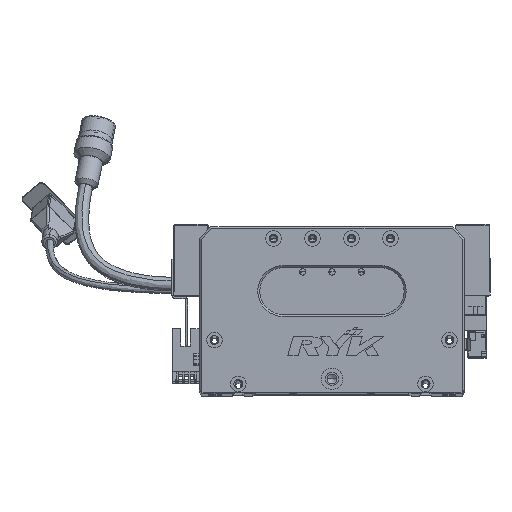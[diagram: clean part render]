
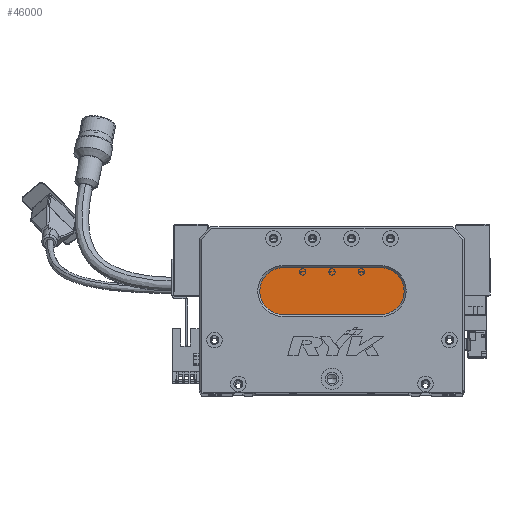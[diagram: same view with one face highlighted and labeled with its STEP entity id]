
A CAD part, top view. The second image highlights one B-rep face of the part: STEP entity #46000.
In plain terms, the highlighted planar face has unit normal (0, 0, 1) as drawn and (0, 0, -1) by its records, which use the part's own axes.
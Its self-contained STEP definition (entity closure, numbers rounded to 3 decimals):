
#2038 = PLANE ( 'NONE',  #2800 ) ;
#2444 = CIRCLE ( 'NONE', #56861, 12. ) ;
#2800 = AXIS2_PLACEMENT_3D ( 'NONE', #31926, #3081, #7978 ) ;
#3081 = DIRECTION ( 'NONE',  ( 0., 0., -1. ) ) ;
#3446 = CARTESIAN_POINT ( 'NONE',  ( 43., 52., 13. ) ) ;
#3552 = LINE ( 'NONE', #17499, #48682 ) ;
#4084 = ORIENTED_EDGE ( 'NONE', *, *, #5307, .T. ) ;
#4498 = EDGE_CURVE ( 'NONE', #50994, #51090, #2444, .T. ) ;
#5307 = EDGE_CURVE ( 'NONE', #40627, #74562, #64211, .T. ) ;
#7978 = DIRECTION ( 'NONE',  ( -1., 0., 0. ) ) ;
#11631 = DIRECTION ( 'NONE',  ( 1., 0., 0. ) ) ;
#13567 = CARTESIAN_POINT ( 'NONE',  ( 93., 40., 13. ) ) ;
#13976 = VECTOR ( 'NONE', #38530, 1000. ) ;
#15154 = DIRECTION ( 'NONE',  ( 0., 0., -1. ) ) ;
#15273 = DIRECTION ( 'NONE',  ( 0., 0., -1. ) ) ;
#17499 = CARTESIAN_POINT ( 'NONE',  ( 93., 64., 13. ) ) ;
#20048 = EDGE_CURVE ( 'NONE', #68729, #40627, #48944, .T. ) ;
#23875 = CARTESIAN_POINT ( 'NONE',  ( 93., 64., 13. ) ) ;
#23885 = ORIENTED_EDGE ( 'NONE', *, *, #75495, .T. ) ;
#25835 = CARTESIAN_POINT ( 'NONE',  ( 93., 52., 13. ) ) ;
#31926 = CARTESIAN_POINT ( 'NONE',  ( 93., 52., 13. ) ) ;
#32339 = EDGE_CURVE ( 'NONE', #51090, #68729, #39723, .T. ) ;
#33508 = ORIENTED_EDGE ( 'NONE', *, *, #20048, .T. ) ;
#38181 = DIRECTION ( 'NONE',  ( -1., 0., 0. ) ) ;
#38530 = DIRECTION ( 'NONE',  ( -1., 0., 0. ) ) ;
#39723 = LINE ( 'NONE', #73883, #13976 ) ;
#40627 = VERTEX_POINT ( 'NONE', #42043 ) ;
#42043 = CARTESIAN_POINT ( 'NONE',  ( 31., 52., 13. ) ) ;
#42725 = CARTESIAN_POINT ( 'NONE',  ( 43., 64., 13. ) ) ;
#46000 = ADVANCED_FACE ( 'NONE', ( #58531 ), #2038, .T. ) ;
#48682 = VECTOR ( 'NONE', #11631, 1000. ) ;
#48944 = CIRCLE ( 'NONE', #62598, 12. ) ;
#50994 = VERTEX_POINT ( 'NONE', #23875 ) ;
#51090 = VERTEX_POINT ( 'NONE', #13567 ) ;
#52000 = ORIENTED_EDGE ( 'NONE', *, *, #32339, .T. ) ;
#53761 = EDGE_LOOP ( 'NONE', ( #69815, #52000, #33508, #4084, #23885 ) ) ;
#56398 = CARTESIAN_POINT ( 'NONE',  ( 43., 52., 13. ) ) ;
#56861 = AXIS2_PLACEMENT_3D ( 'NONE', #25835, #15273, #73283 ) ;
#56922 = DIRECTION ( 'NONE',  ( -1., 0., 0. ) ) ;
#58531 = FACE_OUTER_BOUND ( 'NONE', #53761, .T. ) ;
#62598 = AXIS2_PLACEMENT_3D ( 'NONE', #3446, #73528, #38181 ) ;
#64211 = CIRCLE ( 'NONE', #64296, 12. ) ;
#64296 = AXIS2_PLACEMENT_3D ( 'NONE', #56398, #15154, #56922 ) ;
#68729 = VERTEX_POINT ( 'NONE', #71666 ) ;
#69815 = ORIENTED_EDGE ( 'NONE', *, *, #4498, .T. ) ;
#71666 = CARTESIAN_POINT ( 'NONE',  ( 43., 40., 13. ) ) ;
#73283 = DIRECTION ( 'NONE',  ( -1., 0., 0. ) ) ;
#73528 = DIRECTION ( 'NONE',  ( 0., 0., -1. ) ) ;
#73883 = CARTESIAN_POINT ( 'NONE',  ( 93., 40., 13. ) ) ;
#74562 = VERTEX_POINT ( 'NONE', #42725 ) ;
#75495 = EDGE_CURVE ( 'NONE', #74562, #50994, #3552, .T. ) ;
